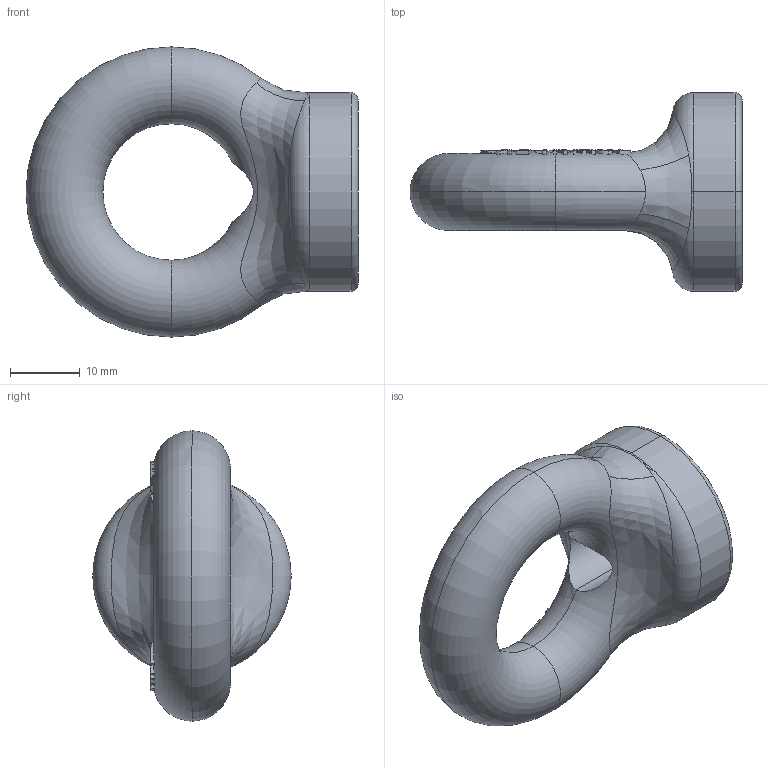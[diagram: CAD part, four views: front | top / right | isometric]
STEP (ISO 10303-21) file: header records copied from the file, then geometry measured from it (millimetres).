
FILE_DESCRIPTION (( 'STEP AP203' ), '1' );
FILE_NAME ('ENMC10.STEP', '2010-02-14T22:04:27', ( ' ' ), ( ' ' ), 'SwSTEP 2.0', 'SolidWorks 2003240', '' );
FILE_SCHEMA (( 'CONFIG_CONTROL_DESIGN' ));
Length unit declared in the file: millimetre
Products named in the file (1): ENMC10
Bounding box: 47.48 x 28.38 x 41.5 mm (x, y, z)
Volume: 14362.1 mm3; surface area: 5077.5 mm2
Topology: 1 solids, 1 shells, 205 faces, 555 edges, 366 vertices
Faces by surface type: plane 129, bspline 39, torus 31, cylinder 4, cone 2
Entity records: 19404 total; most frequent: CARTESIAN_POINT 14943, ORIENTED_EDGE 1110, DIRECTION 569, EDGE_CURVE 555, VERTEX_POINT 366, B_SPLINE_CURVE_WITH_KNOTS 353, EDGE_LOOP 223, FACE_OUTER_BOUND 205
